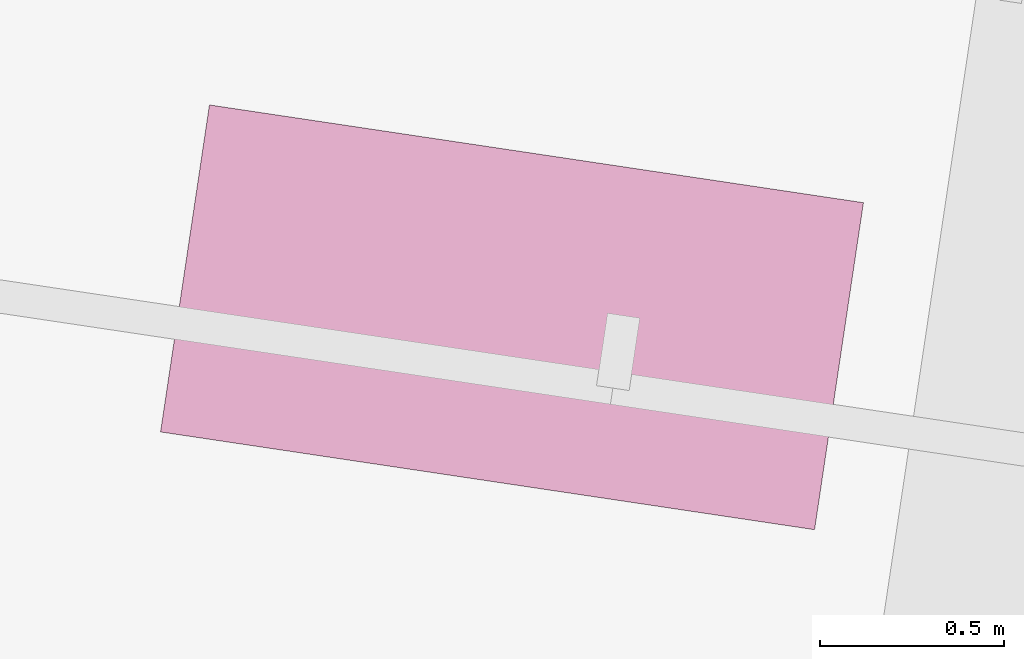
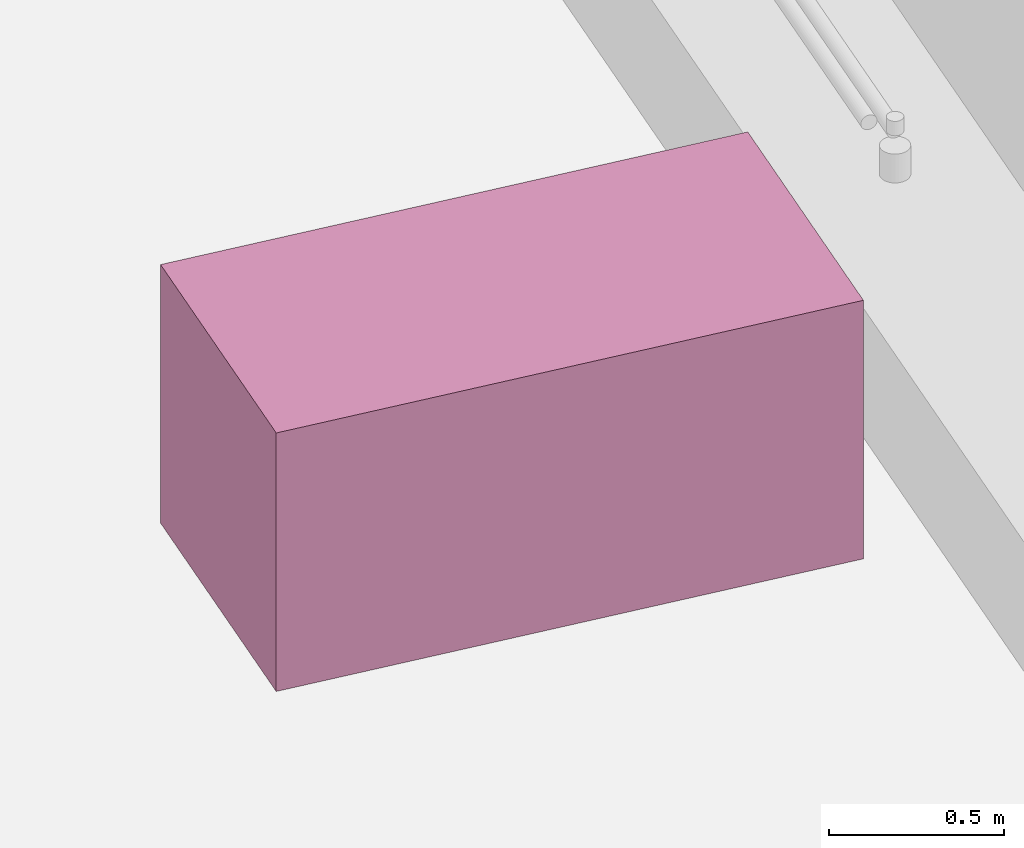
# One storey, part 141 of 142: 1 furnishing.
"""IFC4 building model written with IfcOpenShell, lengths in metres."""

import ifcopenshell
import ifcopenshell.guid

model = None  # the IFC model being written
_history = None  # IfcOwnerHistory: only IFC2X3 demands one
_inside = {}  # id of a spatial element -> (the spatial element, [elements in it])
_under = {}  # id of a project, library or spatial element -> (it, [spatial elements below it])
_declared = {}  # id of a project -> (the project, [libraries it declares])
_typed = {}  # id of a type object -> (the type object, [elements of that type])
_made_of = {}  # id of a material, layer set ... -> (it, [elements and type objects made of it])


def new_model(schema):
    """Start an empty IFC model of exactly this schema.

    Asked for "IFC4X3", IfcOpenShell would pick the latest addendum, in which some entities
    have other attributes; the version numbers below select the first issue.
    IFC2X3 requires an IfcOwnerHistory on every rooted entity: one is made here for all.
    """
    global model, _history
    if schema == "IFC4X3":
        model = ifcopenshell.file(schema_version=(4, 3, 0, 0))
    else:
        model = ifcopenshell.file(schema=schema)
    _inside.clear()
    _under.clear()
    _declared.clear()
    _typed.clear()
    _made_of.clear()
    _history = None
    if model.schema == "IFC2X3":
        org = make("IfcOrganization", Name="unknown")
        user = make(
            "IfcPersonAndOrganization",
            ThePerson=make("IfcPerson", FamilyName="unknown"),
            TheOrganization=org,
        )
        app = make(
            "IfcApplication",
            ApplicationDeveloper=org,
            Version="unknown",
            ApplicationFullName="unknown",
            ApplicationIdentifier="unknown",
        )
        _history = make(
            "IfcOwnerHistory",
            OwningUser=user,
            OwningApplication=app,
            ChangeAction="ADDED",
            CreationDate=0,
        )
    return model


def make(cls, **values):
    """One entity of the class cls with the attributes given. An attribute that is None is left unset."""
    return model.create_entity(
        cls, **{name: value for name, value in values.items() if value is not None}
    )


def rooted(cls, **values):
    """An entity with a GlobalId (a new one), such as an element, a storey or a relation."""
    return make(cls, GlobalId=ifcopenshell.guid.new(), OwnerHistory=_history, **values)


def si_unit(unit_type, name, prefix=None):
    """IfcSIUnit, for example si_unit("LENGTHUNIT", "METRE", prefix="MILLI")."""
    return make("IfcSIUnit", UnitType=unit_type, Prefix=prefix, Name=name)


def assignment(units):
    """IfcUnitAssignment: the units of a project."""
    return None if units is None else make("IfcUnitAssignment", Units=units)


def point(xyz):
    """IfcCartesianPoint."""
    return None if xyz is None else make("IfcCartesianPoint", Coordinates=xyz)


def direction(xyz):
    """IfcDirection."""
    return None if xyz is None else make("IfcDirection", DirectionRatios=xyz)


def frame(location, z_axis=None, x_axis=None):
    """IfcAxis2Placement3D, a coordinate frame: its origin and axes. An axis left out is left unset."""
    return make(
        "IfcAxis2Placement3D",
        Location=point(location),
        Axis=direction(z_axis),
        RefDirection=direction(x_axis),
    )


def origin_with_axes():
    """The frame at (0, 0, 0) with the z axis (0, 0, 1) and the x axis (1, 0, 0) written out."""
    return frame((0.0, 0.0, 0.0), z_axis=(0.0, 0.0, 1.0), x_axis=(1.0, 0.0, 0.0))


def place(relative_to, where):
    """IfcLocalPlacement: puts the frame where relative to a parent placement (None: the world)."""
    return make(
        "IfcLocalPlacement", PlacementRelTo=relative_to, RelativePlacement=where
    )


def context(
    kind, dimensions, precision=None, world=None, true_north=None, identifier=None
):
    """IfcGeometricRepresentationContext, for example the 3D "Model" context."""
    return make(
        "IfcGeometricRepresentationContext",
        ContextIdentifier=identifier,
        ContextType=kind,
        CoordinateSpaceDimension=dimensions,
        Precision=precision,
        WorldCoordinateSystem=world,
        TrueNorth=true_north,
    )


def subcontext(parent, identifier, kind, view, scale=None):
    """IfcGeometricRepresentationSubContext, for example "Body" below "Model"."""
    return make(
        "IfcGeometricRepresentationSubContext",
        ContextIdentifier=identifier,
        ContextType=kind,
        ParentContext=parent,
        TargetScale=scale,
        TargetView=view,
    )


def project(units=None, contexts=None):
    """IfcProject with its units and contexts."""
    return rooted(
        "IfcProject",
        Name="project",
        RepresentationContexts=contexts,
        UnitsInContext=assignment(units),
    )


def spatial(cls, under=None, at=None, **own):
    """A site, building, storey or space (cls), placed at a placement, below another one or the project."""
    s = rooted(cls, ObjectPlacement=at, **own)
    if under is not None:
        _under.setdefault(under.id(), (under, []))[1].append(s)
    return s


def polyline(points):
    """IfcPolyline through the points."""
    return make("IfcPolyline", Points=[point(p) for p in points])


def outline(outer, holes=None, kind="AREA"):
    """IfcArbitraryClosedProfileDef: a profile drawn as a closed curve; with holes, ...WithVoids."""
    if holes is None:
        return make("IfcArbitraryClosedProfileDef", ProfileType=kind, OuterCurve=outer)
    return make(
        "IfcArbitraryProfileDefWithVoids",
        ProfileType=kind,
        OuterCurve=outer,
        InnerCurves=holes,
    )


def extrude(swept, where, along, depth):
    """IfcExtrudedAreaSolid: the profile swept, set in the frame where, extruded along a direction by depth."""
    return make(
        "IfcExtrudedAreaSolid",
        SweptArea=swept,
        Position=where,
        ExtrudedDirection=direction(along),
        Depth=depth,
    )


def shape(context_of_items, identifier, shape_type, items):
    """IfcShapeRepresentation: the items that make up one representation, for example the "Body"."""
    return make(
        "IfcShapeRepresentation",
        ContextOfItems=context_of_items,
        RepresentationIdentifier=identifier,
        RepresentationType=shape_type,
        Items=items,
    )


def material(Name=None, Category=None):
    """IfcMaterial."""
    return make("IfcMaterial", Name=Name, Category=Category)


def made_of(thing, what):
    """Note that an element or type object is made of a material, layer set ...; save() writes the relation."""
    if what is not None:
        _made_of.setdefault(what.id(), (what, []))[1].append(thing)
    return thing


def element(
    cls,
    number,
    at=None,
    inside=None,
    cuts=None,
    type_object=None,
    material=None,
    context=None,
    identifier="Body",
    shape_type=None,
    held_by="IfcProductDefinitionShape",
    body=None,
    shapes=None,
    **own,
):
    """One element of the class cls, such as IfcWall. Its Tag is "e" and its number.

    at: its placement. inside: the storey or other place that contains it. cuts: it is an
    opening in that element (IfcRelVoidsElement). A single representation is given by context,
    identifier, shape_type and body (its items); several are given by shapes. held_by: the class
    of the entity that holds the representations. save() writes the other relations.
    """
    e = rooted(cls, Tag="e%d" % number, ObjectPlacement=at, **own)
    if body is not None:
        shapes = [shape(context, identifier, shape_type, body)]
    if shapes is not None:
        e.Representation = make(held_by, Representations=shapes)
    if inside is not None:
        _inside.setdefault(inside.id(), (inside, []))[1].append(e)
    if cuts is not None:
        rooted(
            "IfcRelVoidsElement", RelatingBuildingElement=cuts, RelatedOpeningElement=e
        )
    if type_object is not None:
        _typed.setdefault(type_object.id(), (type_object, []))[1].append(e)
    return made_of(e, material)


def aggregate(whole, parts):
    """IfcRelAggregates: a whole, such as a stair, and the parts it consists of."""
    return rooted("IfcRelAggregates", RelatingObject=whole, RelatedObjects=parts)


def save(model, path):
    """Write the relations noted so far, then the file.

    IfcRelAggregates (storeys below a building ...), IfcRelContainedInSpatialStructure (elements
    in a storey), IfcRelDefinesByType, IfcRelAssociatesMaterial and IfcRelDeclares: one each for
    every whole, place, type object, material and project.
    """
    for whole, parts in _under.values():
        aggregate(whole, parts)
    for where, things in _inside.values():
        rooted(
            "IfcRelContainedInSpatialStructure",
            RelatedElements=things,
            RelatingStructure=where,
        )
    for kind, things in _typed.values():
        rooted("IfcRelDefinesByType", RelatedObjects=things, RelatingType=kind)
    for what, things in _made_of.values():
        rooted("IfcRelAssociatesMaterial", RelatedObjects=things, RelatingMaterial=what)
    for by, libraries in _declared.values():
        rooted("IfcRelDeclares", RelatingContext=by, RelatedDefinitions=libraries)
    model.write(path)


model = new_model("IFC4")

# Units and contexts
model_context = context("Model", 3, precision=1e-05, world=origin_with_axes(), true_north=direction((0.0, 1.0)))
body_context = subcontext(model_context, "Body", "Model", "MODEL_VIEW")
ifc_project = project(units=[si_unit("VOLUMEUNIT", "CUBIC_METRE"), si_unit("LENGTHUNIT", "METRE"), si_unit("AREAUNIT", "SQUARE_METRE")], contexts=[model_context])

# Site, building, storey
site_placement = place(None, origin_with_axes())
site = spatial("IfcSite", under=ifc_project, at=site_placement, Name="Lares · Rua das Mercês · artigo 4771")
building_placement = place(site_placement, frame((12.0, 10.2, 13.9), z_axis=(0.0, 0.0, 1.0), x_axis=(0.989015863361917, -0.147809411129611, 0.0)))
building = spatial("IfcBuilding", under=site, at=building_placement, Name="Casa Sobreposta")
storey_placement = place(building_placement, origin_with_axes())
storey = spatial("IfcBuildingStorey", under=building, at=storey_placement, Name="00 · Habitação e estacionamento", Elevation=13.9)

# Furnishing
ifc_material = material(Name="OSB", Category="wood")
furnishing_placement = place(storey_placement, origin_with_axes())
element("IfcFurnishingElement", 1, at=furnishing_placement, inside=storey, material=ifc_material, Name="Ilha da cozinha · esquema", context=body_context, shape_type="SweptSolid", body=[
    extrude(outline(polyline([(7.1, 2.5), (7.1, 3.4), (5.3, 3.4), (5.3, 2.5), (7.1, 2.5)])), origin_with_axes(), (0.0, 0.0, 1.0), 0.9),
])

save(model, "model.ifc")
